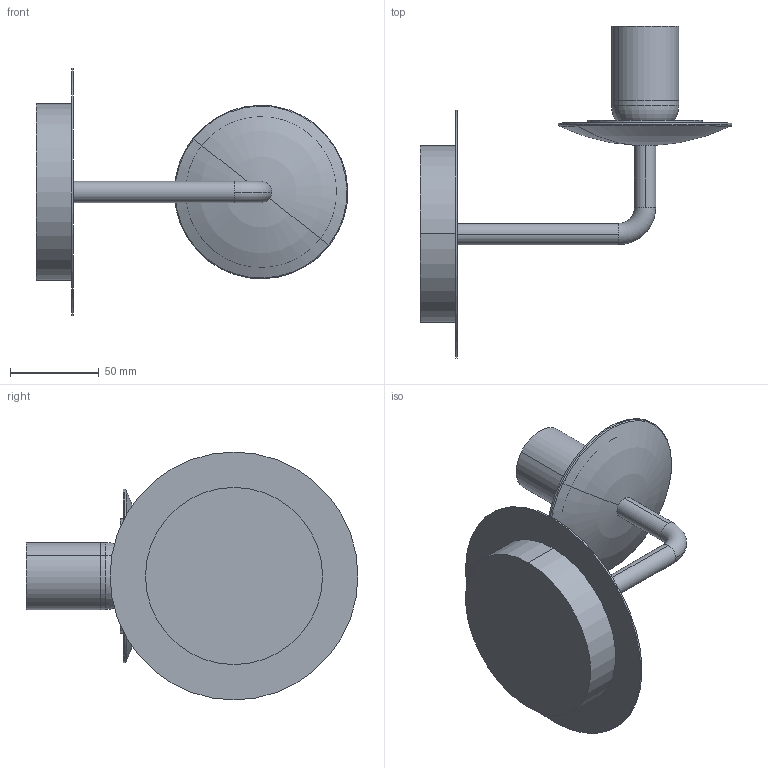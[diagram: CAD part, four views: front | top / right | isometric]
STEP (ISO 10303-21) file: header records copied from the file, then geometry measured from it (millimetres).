
FILE_DESCRIPTION (( 'STEP AP203' ), '1' );
FILE_NAME ('PARMA - A3946182SP - APLIQUE BRAZO SIN TULIPA.STEP', '2026-01-21T12:07:05', ( '' ), ( '' ), 'SwSTEP 2.0', 'SolidWorks 2025', '' );
FILE_SCHEMA (( 'CONFIG_CONTROL_DESIGN' ));
Length unit declared in the file: millimetre
Products named in the file (5): BaseParmaConCasquillo; Portalamparas E27 Parma; PARMA APLIQUE BRAZO ESTRUCTURA; PARMA - A3946182SP - APLIQUE BRAZO SIN TULIPA; Base Parma Shifa
Assembly tree (4 placements, depth 3):
  PARMA - A3946182SP - APLIQUE BRAZO SIN TULIPA
    PARMA APLIQUE BRAZO ESTRUCTURA
    BaseParmaConCasquillo
      Base Parma Shifa
      Portalamparas E27 Parma
Bounding box: 175.97 x 187.45 x 140 mm (x, y, z)
Volume: 257780.6 mm3; surface area: 74713.4 mm2
Topology: 3 solids, 3 shells, 74 faces, 163 edges, 102 vertices
Faces by surface type: cylinder 43, plane 15, torus 10, bspline 4, cone 2
Entity records: 3755 total; most frequent: CARTESIAN_POINT 1623, DIRECTION 371, ORIENTED_EDGE 326, EDGE_CURVE 163, AXIS2_PLACEMENT_3D 163, VERTEX_POINT 102, EDGE_LOOP 85, CIRCLE 85
